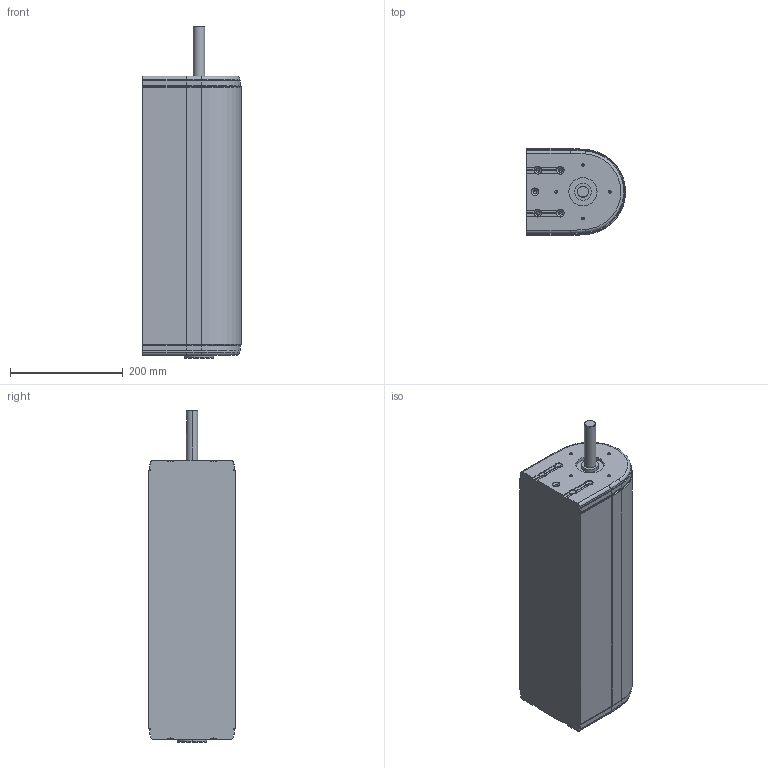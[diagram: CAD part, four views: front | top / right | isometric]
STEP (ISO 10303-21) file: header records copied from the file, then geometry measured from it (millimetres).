
FILE_DESCRIPTION (( 'STEP AP214' ), '1' );
FILE_NAME ('FABER - F2 1800 MDD20 GP.STEP', '2017-04-05T11:57:48', ( '' ), ( '' ), 'SwSTEP 2.0', 'SolidWorks 2016', '' );
FILE_SCHEMA (( 'AUTOMOTIVE_DESIGN' ));
Length unit declared in the file: millimetre
Products named in the file (1): FABER - F2 1800 MDD20 GP
Bounding box: 175.3 x 153.4 x 588 mm (x, y, z)
Volume: 11936737.9 mm3; surface area: 351652.7 mm2
Topology: 1 solids, 1 shells, 310 faces, 771 edges, 442 vertices
Faces by surface type: plane 136, cylinder 102, cone 58, torus 14
Entity records: 10262 total; most frequent: CARTESIAN_POINT 1785, DIRECTION 1539, ORIENTED_EDGE 1470, EDGE_CURVE 735, AXIS2_PLACEMENT_3D 574, VERTEX_POINT 442, VECTOR 391, LINE 391
